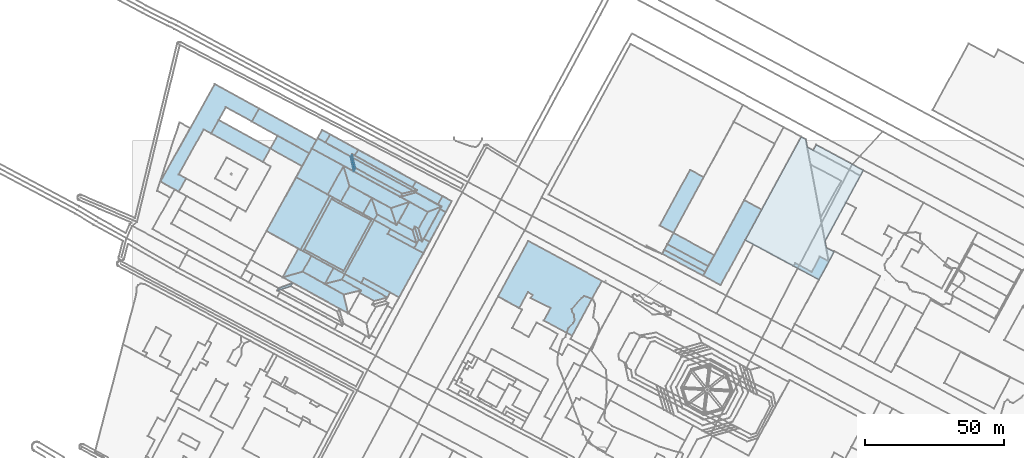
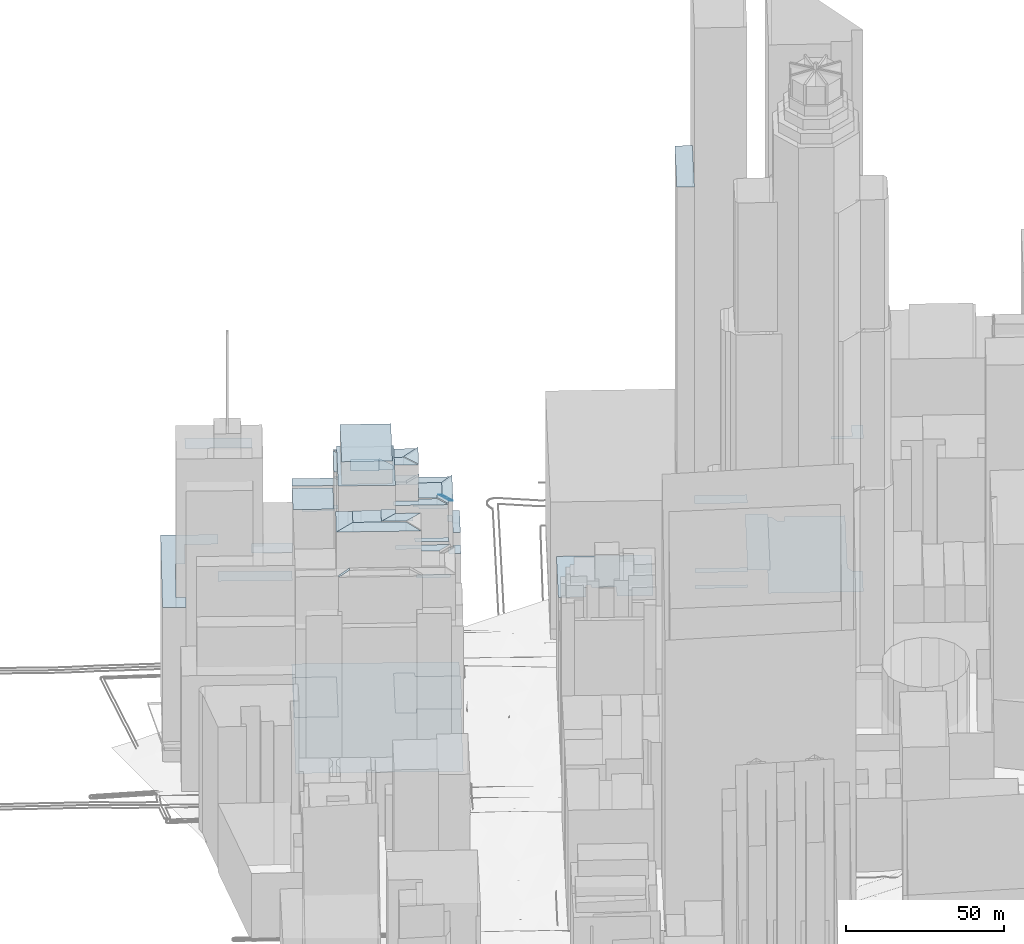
# Not in any storey, part 45 of 80: 49 roofs.
"""IFC4 building model written with IfcOpenShell, lengths in metres."""

from ifc_helpers import new_model, si_unit, frame, origin_with_axes, place, context, subcontext, project, spatial, polygons, element, save


model = new_model("IFC4")

# Units and contexts
model_context = context("Model", 3, precision=1e-05, world=origin_with_axes())
body_context = subcontext(model_context, "Body", "Model", "MODEL_VIEW")
ifc_project = project(units=[si_unit("AREAUNIT", "SQUARE_METRE"), si_unit("LENGTHUNIT", "METRE")], contexts=[model_context])

# Sites, building
site_1_placement = place(None, origin_with_axes())
site_1 = spatial("IfcSite", under=ifc_project, at=site_1_placement, Name="Topoexport Site")
site_2_placement = place(site_1_placement, origin_with_axes())
site_2 = spatial("IfcSite", under=site_1, at=site_2_placement, Name="TPX_BATIMENTS")
building_1_placement = place(site_2_placement, frame((75.1201709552, 329.5761447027, 23.8507407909), z_axis=(0.0, 0.0, 1.0), x_axis=(1.0, 0.0, 0.0)))
building_1 = spatial("IfcBuilding", under=site_2, at=building_1_placement, Name="Batiment 149", CompositionType="ELEMENT")

# Roof
roof_1_placement = place(None, frame((75.1201709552, 329.5761447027, 23.8507407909), z_axis=(0.0, 0.0, 1.0), x_axis=(1.0, 0.0, 0.0)))
element("IfcRoof", 1, at=roof_1_placement, inside=building_1, Name="Toiture 0", context=body_context, shape_type="Tessellation", body=[
    polygons([(0.0, 0.0, 80.0), (7.0088017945, -3.8488115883, 80.0), (6.4714030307, -4.8209481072, 80.0), (11.6537066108, -7.6695578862, 80.0), (16.4083748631, -6.4041945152, 80.0), (1.0997322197, 1.9778684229, 80.0)], [[[6, 1, 2]], [[2, 3, 4]], [[4, 5, 6]], [[6, 2, 4]]]),
])

# Building
building_2_placement = place(site_2_placement, frame((53.8808145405, 330.3842681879, 23.5017044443), z_axis=(0.0, 0.0, 1.0), x_axis=(1.0, 0.0, 0.0)))
building_2 = spatial("IfcBuilding", under=site_2, at=building_2_placement, Name="Batiment 150", CompositionType="ELEMENT")

# Roof
roof_2_placement = place(None, frame((53.8808145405, 330.3842681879, 23.5017044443), z_axis=(0.0, 0.0, 1.0), x_axis=(1.0, 0.0, 0.0)))
element("IfcRoof", 2, at=roof_2_placement, inside=building_2, Name="Toiture 0", context=body_context, shape_type="Tessellation", body=[
    polygons([(0.0, 0.0, 94.0), (20.3973031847, -11.1652006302, 94.0), (23.6510455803, -12.9481890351, 94.0), (21.976830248, -6.1619484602, 94.0), (7.2275813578, 2.0268001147, 94.0)], [[[5, 1, 2]], [[2, 3, 4]], [[4, 5, 2]]]),
])

# Building
building_3_placement = place(site_2_placement, frame((237.4075822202, 334.4377302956, 21.8574343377), z_axis=(0.0, 0.0, 1.0), x_axis=(1.0, 0.0, 0.0)))
building_3 = spatial("IfcBuilding", under=site_2, at=building_3_placement, Name="Batiment 247", CompositionType="ELEMENT")

# Roof
roof_3_placement = place(None, frame((237.4075822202, 334.4377302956, 21.8574343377), z_axis=(0.0, 0.0, 1.0), x_axis=(1.0, 0.0, 0.0)))
element("IfcRoof", 3, at=roof_3_placement, inside=building_3, Name="Toiture 0", context=body_context, shape_type="Tessellation", body=[
    polygons([(0.0, 0.0, 65.0), (9.0722546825, -4.8904699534, 65.0), (12.6339095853, 1.6902007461, 65.0), (9.4062271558, 3.4068039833, 65.0), (6.507259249, -2.0892360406, 65.0), (0.6119191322, 1.095140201, 65.0)], [[[6, 1, 2]], [[2, 3, 4]], [[5, 6, 2]], [[2, 4, 5]]]),
])

# Building
building_4_placement = place(site_2_placement, frame((220.0023122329, 343.8054149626, 21.493715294), z_axis=(0.0, 0.0, 1.0), x_axis=(1.0, 0.0, 0.0)))
building_4 = spatial("IfcBuilding", under=site_2, at=building_4_placement, Name="Batiment 248", CompositionType="ELEMENT")

# Roof
roof_4_placement = place(None, frame((220.0023122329, 343.8054149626, 21.493715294), z_axis=(0.0, 0.0, 1.0), x_axis=(1.0, 0.0, 0.0)))
element("IfcRoof", 4, at=roof_4_placement, inside=building_4, Name="Toiture 0", context=body_context, shape_type="Tessellation", body=[
    polygons([(0.0, 0.0, 6.0), (26.4775246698, -14.2581546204, 6.0), (31.9063663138, -4.1918534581, 6.0), (29.1545647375, -2.74727068, 6.0), (28.6785615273, -0.2881071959, 6.0), (42.4133124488, 25.0405352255, 6.0), (25.5002002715, 34.1918411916, 6.0), (24.4257112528, 32.2253420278, 6.0), (22.3276907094, 33.344465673, 6.0), (21.8057455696, 36.1250606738, 6.0), (20.1234892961, 37.0602835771, 6.0)], [[[11, 1, 2]], [[2, 3, 4]], [[5, 6, 7]], [[9, 10, 11]], [[11, 2, 4]], [[5, 7, 8]], [[11, 4, 5]], [[5, 8, 9]], [[9, 11, 5]]]),
])

# Building
building_5_placement = place(site_2_placement, frame((189.3088417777, 348.9551990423, 22.410062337), z_axis=(0.0, 0.0, 1.0), x_axis=(1.0, 0.0, 0.0)))
building_5 = spatial("IfcBuilding", under=site_2, at=building_5_placement, Name="Batiment 252", CompositionType="ELEMENT")

# Roof
roof_5_placement = place(None, frame((189.3088417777, 348.9551990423, 22.410062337), z_axis=(0.0, 0.0, 1.0), x_axis=(1.0, 0.0, 0.0)))
element("IfcRoof", 5, at=roof_5_placement, inside=building_5, Name="Toiture 0", context=body_context, shape_type="Tessellation", body=[
    polygons([(0.0, 0.0, 170.0), (4.9269305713, -2.6627662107, 170.0), (15.8109363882, 17.3923517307, 170.0), (10.8841438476, 20.0440098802, 170.0)], [[[4, 1, 2]], [[2, 3, 4]]]),
])

# Building
building_6_placement = place(site_2_placement, frame((192.0622109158, 342.2925513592, 22.833956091), z_axis=(0.0, 0.0, 1.0), x_axis=(1.0, 0.0, 0.0)))
building_6 = spatial("IfcBuilding", under=site_2, at=building_6_placement, Name="Batiment 253", CompositionType="ELEMENT")

# Roof
roof_6_placement = place(None, frame((192.0622109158, 342.2925513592, 22.833956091), z_axis=(0.0, 0.0, 1.0), x_axis=(1.0, 0.0, 0.0)))
element("IfcRoof", 6, at=roof_6_placement, inside=building_6, Name="Toiture 0", context=body_context, shape_type="Tessellation", body=[
    polygons([(0.0, 0.0, 50.0), (14.6956420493, -7.9226606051, 50.0), (16.8690690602, -3.9116740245, 50.0), (2.1735614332, 3.9998814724, 50.0)], [[[4, 1, 2]], [[2, 3, 4]]]),
])

# Building
building_7_placement = place(site_2_placement, frame((190.971338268, 340.2814610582, 22.7953305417), z_axis=(0.0, 0.0, 1.0), x_axis=(1.0, 0.0, 0.0)))
building_7 = spatial("IfcBuilding", under=site_2, at=building_7_placement, Name="Batiment 254", CompositionType="ELEMENT")

# Roof
roof_7_placement = place(None, frame((190.971338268, 340.2814610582, 22.7953305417), z_axis=(0.0, 0.0, 1.0), x_axis=(1.0, 0.0, 0.0)))
element("IfcRoof", 7, at=roof_7_placement, inside=building_7, Name="Toiture 0", context=body_context, shape_type="Tessellation", body=[
    polygons([(0.0, 0.0, 25.0), (14.6956447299, -7.9226627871, 25.0), (15.7865146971, -5.9115703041, 25.0), (1.0908726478, 2.011090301, 25.0)], [[[4, 1, 2]], [[2, 3, 4]]]),
])

# Building
building_8_placement = place(site_2_placement, frame((190.1696765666, 338.8066419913, 22.7695470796), z_axis=(0.0, 0.0, 1.0), x_axis=(1.0, 0.0, 0.0)))
building_8 = spatial("IfcBuilding", under=site_2, at=building_8_placement, Name="Batiment 255", CompositionType="ELEMENT")

# Roof
roof_8_placement = place(None, frame((190.1696765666, 338.8066419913, 22.7695470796), z_axis=(0.0, 0.0, 1.0), x_axis=(1.0, 0.0, 0.0)))
element("IfcRoof", 8, at=roof_8_placement, inside=building_8, Name="Toiture 0", context=body_context, shape_type="Tessellation", body=[
    polygons([(0.0, 0.0, 20.0), (14.728245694, -7.822364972, 20.0), (15.4973064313, -6.4478437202, 20.0), (0.8016617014, 1.4748190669, 20.0)], [[[4, 1, 2]], [[2, 3, 4]]]),
])

# Building
building_9_placement = place(site_2_placement, frame((204.8979222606, 330.9842770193, 21.8344391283), z_axis=(0.0, 0.0, 1.0), x_axis=(1.0, 0.0, 0.0)))
building_9 = spatial("IfcBuilding", under=site_2, at=building_9_placement, Name="Batiment 256", CompositionType="ELEMENT")

# Roof
roof_9_placement = place(None, frame((204.8979222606, 330.9842770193, 21.8344391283), z_axis=(0.0, 0.0, 1.0), x_axis=(1.0, 0.0, 0.0)))
element("IfcRoof", 9, at=roof_9_placement, inside=building_9, Name="Toiture 0", context=body_context, shape_type="Tessellation", body=[
    polygons([(0.0, 0.0, 27.7000007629), (6.2862894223, -3.4130030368, 27.7000007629), (21.0215421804, 23.7257687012, 27.7000007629), (14.7522776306, 27.1278546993, 27.7000007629)], [[[4, 1, 2]], [[2, 3, 4]]]),
])

# Building
building_10_placement = place(site_2_placement, frame((131.2414210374, 323.4889407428, 19.5874307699), z_axis=(0.0, 0.0, 1.0), x_axis=(1.0, 0.0, 0.0)))
building_10 = spatial("IfcBuilding", under=site_2, at=building_10_placement, Name="Batiment 257", CompositionType="ELEMENT")

# Roof
roof_10_placement = place(None, frame((131.2414210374, 323.4889407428, 19.5874307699), z_axis=(0.0, 0.0, 1.0), x_axis=(1.0, 0.0, 0.0)))
element("IfcRoof", 10, at=roof_10_placement, inside=building_10, Name="Toiture 0", context=body_context, shape_type="Tessellation", body=[
    polygons([(0.0, 0.0, 49.7000007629), (7.6623465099, -4.1520283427, 49.7000007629), (10.7530705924, 1.557139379, 49.7000007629), (12.4605179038, 0.6332892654, 49.7000007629), (11.7910505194, -0.5957385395, 49.7000007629), (18.9140593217, -4.0989897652, 49.7000007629), (16.4763130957, -8.6126311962, 49.7000007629), (26.6105246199, -14.0903890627, 49.7000007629), (37.2957336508, 5.6514960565, 49.7000007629), (10.8174622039, 19.9876323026, 49.7000007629)], [[[10, 1, 2]], [[4, 5, 6]], [[6, 7, 8]], [[8, 9, 10]], [[10, 2, 3]], [[6, 8, 10]], [[10, 3, 4]], [[4, 6, 10]]]),
])

# Building
building_11_placement = place(site_2_placement, frame((96.2081885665, 359.2420118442, 24.1378546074), z_axis=(0.0, 0.0, 1.0), x_axis=(1.0, 0.0, 0.0)))
building_11 = spatial("IfcBuilding", under=site_2, at=building_11_placement, Name="Batiment 275", CompositionType="ELEMENT")

# Roof
roof_11_placement = place(None, frame((96.2081885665, 359.2420118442, 24.1378546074), z_axis=(0.0, 0.0, 1.0), x_axis=(1.0, 0.0, 0.0)))
element("IfcRoof", 11, at=roof_11_placement, inside=building_11, Name="Toiture 0", context=body_context, shape_type="Tessellation", body=[
    polygons([(0.0, 0.0, 80.0), (5.476758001, 1.5957227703, 80.0), (5.9728530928, 2.4896654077, 80.0), (0.6444088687, 1.2065279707, 80.0)], [[[4, 1, 2]], [[2, 3, 4]]]),
])

# Building
building_12_placement = place(site_2_placement, frame((100.5582678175, 362.6343155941, 24.249661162), z_axis=(0.0, 0.0, 1.0), x_axis=(1.0, 0.0, 0.0)))
building_12 = spatial("IfcBuilding", under=site_2, at=building_12_placement, Name="Batiment 276", CompositionType="ELEMENT")

# Roof
roof_12_placement = place(None, frame((100.5582678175, 362.6343155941, 24.249661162), z_axis=(0.0, 0.0, 1.0), x_axis=(1.0, 0.0, 0.0)))
element("IfcRoof", 12, at=roof_12_placement, inside=building_12, Name="Toiture 0", context=body_context, shape_type="Tessellation", body=[
    polygons([(0.0, 0.0, 67.0), (1.6227738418, -0.9026383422, 67.0), (1.12667875, -1.7965809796, 67.0), (9.0533233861, -6.1787158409, 67.0), (10.7731599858, -3.0834129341, 67.0), (1.1989392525, 2.1566610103, 67.0)], [[[6, 1, 2]], [[2, 3, 4]], [[4, 5, 6]], [[6, 2, 4]]]),
])

# Building
building_13_placement = place(site_2_placement, frame((95.4278204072, 350.1179975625, 24.1757851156), z_axis=(0.0, 0.0, 1.0), x_axis=(1.0, 0.0, 0.0)))
building_13 = spatial("IfcBuilding", under=site_2, at=building_13_placement, Name="Batiment 277", CompositionType="ELEMENT")

# Roof
roof_13_placement = place(None, frame((95.4278204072, 350.1179975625, 24.1757851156), z_axis=(0.0, 0.0, 1.0), x_axis=(1.0, 0.0, 0.0)))
element("IfcRoof", 13, at=roof_13_placement, inside=building_13, Name="Toiture 0", context=body_context, shape_type="Tessellation", body=[
    polygons([(0.0, 0.0, 80.0), (5.1904741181, -2.8263004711, 80.0), (5.942800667, -1.4630871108, 80.0), (7.3274473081, -2.2130597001, 80.0), (10.6093444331, 3.7536652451, 80.0), (4.0340988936, 7.3410355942, 80.0)], [[[6, 1, 2]], [[3, 4, 5]], [[6, 2, 3]], [[3, 5, 6]]]),
])

# Building
building_14_placement = place(site_2_placement, frame((100.6182945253, 347.2916970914, 24.2468793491), z_axis=(0.0, 0.0, 1.0), x_axis=(1.0, 0.0, 0.0)))
building_14 = spatial("IfcBuilding", under=site_2, at=building_14_placement, Name="Batiment 278", CompositionType="ELEMENT")

# Roof
roof_14_placement = place(None, frame((100.6182945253, 347.2916970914, 24.2468793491), z_axis=(0.0, 0.0, 1.0), x_axis=(1.0, 0.0, 0.0)))
element("IfcRoof", 14, at=roof_14_placement, inside=building_14, Name="Toiture 0", context=body_context, shape_type="Tessellation", body=[
    polygons([(0.0, 0.0, 80.0), (1.4724916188, -4.6791504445, 80.0), (2.1913155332, -3.3385306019, 80.0), (0.7523265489, 1.3632133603, 80.0)], [[[4, 1, 2]], [[2, 3, 4]]]),
])

# Building
building_15_placement = place(site_2_placement, frame((101.3706210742, 348.6549104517, 24.232721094), z_axis=(0.0, 0.0, 1.0), x_axis=(1.0, 0.0, 0.0)))
building_15 = spatial("IfcBuilding", under=site_2, at=building_15_placement, Name="Batiment 279", CompositionType="ELEMENT")

# Roof
roof_15_placement = place(None, frame((101.3706210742, 348.6549104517, 24.232721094), z_axis=(0.0, 0.0, 1.0), x_axis=(1.0, 0.0, 0.0)))
element("IfcRoof", 15, at=roof_15_placement, inside=building_15, Name="Toiture 0", context=body_context, shape_type="Tessellation", body=[
    polygons([(0.0, 0.0, 80.0), (1.4389889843, -4.7017439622, 80.0), (2.7214517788, -5.3751874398, 80.0), (1.3846466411, -0.7499725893, 80.0)], [[[4, 1, 2]], [[2, 3, 4]]]),
])

# Building
building_16_placement = place(site_2_placement, frame((104.621027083, 344.2517632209, 24.2058781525), z_axis=(0.0, 0.0, 1.0), x_axis=(1.0, 0.0, 0.0)))
building_16 = spatial("IfcBuilding", under=site_2, at=building_16_placement, Name="Batiment 280", CompositionType="ELEMENT")

# Roof
roof_16_placement = place(None, frame((104.621027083, 344.2517632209, 24.2058781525), z_axis=(0.0, 0.0, 1.0), x_axis=(1.0, 0.0, 0.0)))
element("IfcRoof", 16, at=roof_16_placement, inside=building_16, Name="Toiture 0", context=body_context, shape_type="Tessellation", body=[
    polygons([(0.0, 0.0, 67.0), (2.0982656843, -1.14136393, 67.0), (7.8835058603, 9.5062875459, 67.0), (5.7938113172, 10.6366471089, 67.0)], [[[4, 1, 2]], [[2, 3, 4]]]),
])

# Building
building_17_placement = place(site_2_placement, frame((102.7552677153, 347.9049378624, 24.232721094), z_axis=(0.0, 0.0, 1.0), x_axis=(1.0, 0.0, 0.0)))
building_17 = spatial("IfcBuilding", under=site_2, at=building_17_placement, Name="Batiment 281", CompositionType="ELEMENT")

# Roof
roof_17_placement = place(None, frame((102.7552677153, 347.9049378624, 24.232721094), z_axis=(0.0, 0.0, 1.0), x_axis=(1.0, 0.0, 0.0)))
element("IfcRoof", 17, at=roof_17_placement, inside=building_17, Name="Toiture 0", context=body_context, shape_type="Tessellation", body=[
    polygons([(0.0, 0.0, 80.0), (1.3368051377, -4.6252148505, 80.0), (8.1803409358, 7.9332136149, 80.0), (3.281897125, 5.9667249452, 80.0)], [[[4, 1, 2]], [[2, 3, 4]]]),
])

# Building
building_18_placement = place(site_2_placement, frame((109.6115912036, 356.4555997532, 24.2810848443), z_axis=(0.0, 0.0, 1.0), x_axis=(1.0, 0.0, 0.0)))
building_18 = spatial("IfcBuilding", under=site_2, at=building_18_placement, Name="Batiment 282", CompositionType="ELEMENT")

# Roof
roof_18_placement = place(None, frame((109.6115912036, 356.4555997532, 24.2810848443), z_axis=(0.0, 0.0, 1.0), x_axis=(1.0, 0.0, 0.0)))
element("IfcRoof", 18, at=roof_18_placement, inside=building_18, Name="Toiture 0", context=body_context, shape_type="Tessellation", body=[
    polygons([(0.0, 0.0, 62.0), (1.3240174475, -0.6174482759, 62.0), (0.8032471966, -1.5671894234, 62.0), (2.8929417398, -2.6975489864, 62.0), (5.0500484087, 1.268810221, 62.0), (1.7198365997, 3.0953029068, 62.0)], [[[6, 1, 2]], [[2, 3, 4]], [[4, 5, 6]], [[6, 2, 4]]]),
])

# Building
building_19_placement = place(site_2_placement, frame((101.1237847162, 340.8360563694, 24.2058781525), z_axis=(0.0, 0.0, 1.0), x_axis=(1.0, 0.0, 0.0)))
building_19 = spatial("IfcBuilding", under=site_2, at=building_19_placement, Name="Batiment 283", CompositionType="ELEMENT")

# Roof
roof_19_placement = place(None, frame((101.1237847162, 340.8360563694, 24.2058781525), z_axis=(0.0, 0.0, 1.0), x_axis=(1.0, 0.0, 0.0)))
element("IfcRoof", 19, at=roof_19_placement, inside=building_19, Name="Toiture 0", context=body_context, shape_type="Tessellation", body=[
    polygons([(0.0, 0.0, 62.0), (3.3638492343, -1.8150044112, 62.0), (5.5955080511, 2.2743429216, 62.0), (3.4972423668, 3.4157068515, 62.0), (2.9682881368, 2.4436666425, 62.0), (1.6858253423, 3.1171101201, 62.0)], [[[6, 1, 2]], [[2, 3, 4]], [[5, 6, 2]], [[2, 4, 5]]]),
])

# Building
building_20_placement = place(site_2_placement, frame((76.2199031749, 331.5540131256, 23.8161532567), z_axis=(0.0, 0.0, 1.0), x_axis=(1.0, 0.0, 0.0)))
building_20 = spatial("IfcBuilding", under=site_2, at=building_20_placement, Name="Batiment 284", CompositionType="ELEMENT")

# Roof
roof_20_placement = place(None, frame((76.2199031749, 331.5540131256, 23.8161532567), z_axis=(0.0, 0.0, 1.0), x_axis=(1.0, 0.0, 0.0)))
element("IfcRoof", 20, at=roof_20_placement, inside=building_20, Name="Toiture 0", context=body_context, shape_type="Tessellation", body=[
    polygons([(0.0, 0.0, 15.0), (5.886443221, -3.1512997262, 15.0), (6.870460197, -1.3857167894, 15.0), (19.4873212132, -8.4001453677, 15.0), (28.2677307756, 7.4670388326, 15.0), (15.4237759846, 14.4122011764, 15.0), (16.3907789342, 16.1886902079, 15.0), (10.5539558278, 19.4293756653, 15.0)], [[[8, 1, 2]], [[3, 4, 5]], [[6, 7, 8]], [[8, 2, 3]], [[3, 5, 6]], [[6, 8, 3]]]),
])

# Building
building_21_placement = place(site_2_placement, frame((91.6436791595, 345.966214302, 24.0394007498), z_axis=(0.0, 0.0, 1.0), x_axis=(1.0, 0.0, 0.0)))
building_21 = spatial("IfcBuilding", under=site_2, at=building_21_placement, Name="Batiment 285", CompositionType="ELEMENT")

# Roof
roof_21_placement = place(None, frame((91.6436791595, 345.966214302, 24.0394007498), z_axis=(0.0, 0.0, 1.0), x_axis=(1.0, 0.0, 0.0)))
element("IfcRoof", 21, at=roof_21_placement, inside=building_21, Name="Toiture 0", context=body_context, shape_type="Tessellation", body=[
    polygons([(0.0, 0.0, 67.0), (9.4801055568, -5.1301579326, 67.0), (10.4471069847, -3.353667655, 67.0), (0.9670029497, 1.7764890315, 67.0)], [[[4, 1, 2]], [[2, 3, 4]]]),
])

# Building
building_22_placement = place(site_2_placement, frame((86.7738590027, 350.9833887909, 23.8161532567), z_axis=(0.0, 0.0, 1.0), x_axis=(1.0, 0.0, 0.0)))
building_22 = spatial("IfcBuilding", under=site_2, at=building_22_placement, Name="Batiment 286", CompositionType="ELEMENT")

# Roof
roof_22_placement = place(None, frame((86.7738590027, 350.9833887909, 23.8161532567), z_axis=(0.0, 0.0, 1.0), x_axis=(1.0, 0.0, 0.0)))
element("IfcRoof", 22, at=roof_22_placement, inside=building_22, Name="Toiture 0", context=body_context, shape_type="Tessellation", body=[
    polygons([(0.0, 0.0, 80.0), (5.8368231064, -3.2406854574, 80.0), (15.3169271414, -8.3708421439, 80.0), (13.8444355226, -3.6916916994, 80.0), (8.6539614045, -0.8653912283, 80.0), (8.1165662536, -1.8375288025, 80.0), (1.1079080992, 2.0001698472, 80.0)], [[[7, 1, 2]], [[2, 3, 4]], [[4, 5, 6]], [[6, 7, 2]], [[2, 4, 6]]]),
])

# Building
building_23_placement = place(site_2_placement, frame((92.8106246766, 355.2390469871, 24.0480155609), z_axis=(0.0, 0.0, 1.0), x_axis=(1.0, 0.0, 0.0)))
building_23 = spatial("IfcBuilding", under=site_2, at=building_23_placement, Name="Batiment 287", CompositionType="ELEMENT")

# Roof
roof_23_placement = place(None, frame((92.8106246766, 355.2390469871, 24.0480155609), z_axis=(0.0, 0.0, 1.0), x_axis=(1.0, 0.0, 0.0)))
element("IfcRoof", 23, at=roof_23_placement, inside=building_23, Name="Toiture 0", context=body_context, shape_type="Tessellation", body=[
    polygons([(0.0, 0.0, 94.0), (2.0798005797, -6.0931869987, 94.0), (6.6512946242, 2.2199861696, 94.0)], [[[3, 1, 2]]]),
])

# Building
building_24_placement = place(site_2_placement, frame((79.4722561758, 368.4179540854, 23.5718630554), z_axis=(0.0, 0.0, 1.0), x_axis=(1.0, 0.0, 0.0)))
building_24 = spatial("IfcBuilding", under=site_2, at=building_24_placement, Name="Batiment 288", CompositionType="ELEMENT")

# Roof
roof_24_placement = place(None, frame((79.4722561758, 368.4179540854, 23.5718630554), z_axis=(0.0, 0.0, 1.0), x_axis=(1.0, 0.0, 0.0)))
element("IfcRoof", 24, at=roof_24_placement, inside=building_24, Name="Toiture 0", context=body_context, shape_type="Tessellation", body=[
    polygons([(0.0, 0.0, 80.0), (16.7359323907, -9.1759422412, 80.0), (17.3803412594, -7.9694142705, 80.0), (0.6023388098, 1.1949356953, 80.0)], [[[4, 1, 2]], [[2, 3, 4]]]),
])

# Building
building_25_placement = place(site_2_placement, frame((75.8192697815, 370.4183503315, 23.455162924), z_axis=(0.0, 0.0, 1.0), x_axis=(1.0, 0.0, 0.0)))
building_25 = spatial("IfcBuilding", under=site_2, at=building_25_placement, Name="Batiment 289", CompositionType="ELEMENT")

# Roof
roof_25_placement = place(None, frame((75.8192697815, 370.4183503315, 23.455162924), z_axis=(0.0, 0.0, 1.0), x_axis=(1.0, 0.0, 0.0)))
element("IfcRoof", 25, at=roof_25_placement, inside=building_25, Name="Toiture 0", context=body_context, shape_type="Tessellation", body=[
    polygons([(0.0, 0.0, 94.0), (2.1596786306, -7.1580802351, 94.0), (16.9913548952, -15.1793033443, 94.0), (23.6426495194, -12.9593171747, 94.0)], [[[4, 1, 2]], [[2, 3, 4]]]),
])

# Building
building_26_placement = place(site_2_placement, frame((85.9220693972, 358.9116084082, 23.7825598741), z_axis=(0.0, 0.0, 1.0), x_axis=(1.0, 0.0, 0.0)))
building_26 = spatial("IfcBuilding", under=site_2, at=building_26_placement, Name="Batiment 290", CompositionType="ELEMENT")

# Roof
roof_26_placement = place(None, frame((85.9220693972, 358.9116084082, 23.7825598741), z_axis=(0.0, 0.0, 1.0), x_axis=(1.0, 0.0, 0.0)))
element("IfcRoof", 26, at=roof_26_placement, inside=building_26, Name="Toiture 0", context=body_context, shape_type="Tessellation", body=[
    polygons([(0.0, 0.0, 94.0), (1.9596977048, -5.9280497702, 94.0), (8.9683558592, -9.7657484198, 94.0), (6.8885552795, -3.6725614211, 94.0)], [[[4, 1, 2]], [[2, 3, 4]]]),
])

# Building
building_27_placement = place(site_2_placement, frame((82.7722366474, 353.201778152, 23.6513045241), z_axis=(0.0, 0.0, 1.0), x_axis=(1.0, 0.0, 0.0)))
building_27 = spatial("IfcBuilding", under=site_2, at=building_27_placement, Name="Batiment 291", CompositionType="ELEMENT")

# Roof
roof_27_placement = place(None, frame((82.7722366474, 353.201778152, 23.6513045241), z_axis=(0.0, 0.0, 1.0), x_axis=(1.0, 0.0, 0.0)))
element("IfcRoof", 27, at=roof_27_placement, inside=building_27, Name="Toiture 0", context=body_context, shape_type="Tessellation", body=[
    polygons([(0.0, 0.0, 94.0), (4.0016223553, -2.2183893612, 94.0), (5.1095304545, -0.218219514, 94.0), (3.1498327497, 5.7098302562, 94.0)], [[[4, 1, 2]], [[2, 3, 4]]]),
])

# Building
building_28_placement = place(site_2_placement, frame((74.8292405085, 357.53934249, 23.2877785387), z_axis=(0.0, 0.0, 1.0), x_axis=(1.0, 0.0, 0.0)))
building_28 = spatial("IfcBuilding", under=site_2, at=building_28_placement, Name="Batiment 292", CompositionType="ELEMENT")

# Roof
roof_28_placement = place(None, frame((74.8292405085, 357.53934249, 23.2877785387), z_axis=(0.0, 0.0, 1.0), x_axis=(1.0, 0.0, 0.0)))
element("IfcRoof", 28, at=roof_28_placement, inside=building_28, Name="Toiture 0", context=body_context, shape_type="Tessellation", body=[
    polygons([(0.0, 0.0, 94.0), (7.9429961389, -4.337564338, 94.0), (11.0928288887, 1.3722659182, 94.0), (3.1497079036, 5.7209276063, 94.0)], [[[4, 1, 2]], [[2, 3, 4]]]),
])

# Building
building_29_placement = place(site_2_placement, frame((38.8830888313, 330.1657711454, 23.4054188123), z_axis=(0.0, 0.0, 1.0), x_axis=(1.0, 0.0, 0.0)))
building_29 = spatial("IfcBuilding", under=site_2, at=building_29_placement, Name="Batiment 293", CompositionType="ELEMENT")

# Roof
roof_29_placement = place(None, frame((38.8830888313, 330.1657711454, 23.4054188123), z_axis=(0.0, 0.0, 1.0), x_axis=(1.0, 0.0, 0.0)))
element("IfcRoof", 29, at=roof_29_placement, inside=building_29, Name="Toiture 0", context=body_context, shape_type="Tessellation", body=[
    polygons([(0.0, 0.0, 6.0), (46.6647208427, -25.5263239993, 6.0), (75.778550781, 27.5586388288, 6.0), (29.2065067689, 53.1191580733, 6.0)], [[[4, 1, 2]], [[2, 3, 4]]]),
])

# Building
building_30_placement = place(site_2_placement, frame((61.6318682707, 340.3996652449, 127.1275293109), z_axis=(0.0, 0.0, 1.0), x_axis=(1.0, 0.0, 0.0)))
building_30 = spatial("IfcBuilding", under=site_2, at=building_30_placement, Name="Batiment 294", CompositionType="ELEMENT")

# Roof
roof_30_placement = place(None, frame((61.6318682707, 340.3996652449, 127.1275293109), z_axis=(0.0, 0.0, 1.0), x_axis=(1.0, 0.0, 0.0)))
element("IfcRoof", 30, at=roof_30_placement, inside=building_30, Name="Toiture 0", context=body_context, shape_type="Tessellation", body=[
    polygons([(0.0, 0.0, 8.8000030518), (14.1943048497, -7.651180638, 8.8000030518), (24.0125535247, 10.4373802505, 8.8000030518), (9.81827195, 18.0885419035, 8.8000030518)], [[[4, 1, 2]], [[2, 3, 4]]]),
])

# Building
building_31_placement = place(site_2_placement, frame((60.3249272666, 340.2734696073, 23.0925662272), z_axis=(0.0, 0.0, 1.0), x_axis=(1.0, 0.0, 0.0)))
building_31 = spatial("IfcBuilding", under=site_2, at=building_31_placement, Name="Batiment 295", CompositionType="ELEMENT")

# Roof
roof_31_placement = place(None, frame((60.3249272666, 340.2734696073, 23.0925662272), z_axis=(0.0, 0.0, 1.0), x_axis=(1.0, 0.0, 0.0)))
element("IfcRoof", 31, at=roof_31_placement, inside=building_31, Name="Toiture 0", context=body_context, shape_type="Tessellation", body=[
    polygons([(0.0, 0.0, 104.0), (15.8949759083, -8.7194564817, 104.0), (26.4489317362, 10.7099191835, 104.0), (10.5539835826, 19.4293528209, 104.0)], [[[4, 1, 2]], [[2, 3, 4]]]),
])

# Building
building_32_placement = place(site_2_placement, frame((70.1312780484, 360.1160272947, 23.0634036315), z_axis=(0.0, 0.0, 1.0), x_axis=(1.0, 0.0, 0.0)))
building_32 = spatial("IfcBuilding", under=site_2, at=building_32_placement, Name="Batiment 296", CompositionType="ELEMENT")

# Roof
roof_32_placement = place(None, frame((70.1312780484, 360.1160272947, 23.0634036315), z_axis=(0.0, 0.0, 1.0), x_axis=(1.0, 0.0, 0.0)))
element("IfcRoof", 32, at=roof_32_placement, inside=building_32, Name="Toiture 0", context=body_context, shape_type="Tessellation", body=[
    polygons([(0.0, 0.0, 94.0), (4.6979624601, -2.5766848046, 94.0), (7.8476703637, 3.1442428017, 94.0), (5.6879917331, 10.3023230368, 94.0)], [[[4, 1, 2]], [[2, 3, 4]]]),
])

# Building
building_33_placement = place(site_2_placement, frame((48.1254357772, 346.9708364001, 22.6869888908), z_axis=(0.0, 0.0, 1.0), x_axis=(1.0, 0.0, 0.0)))
building_33 = spatial("IfcBuilding", under=site_2, at=building_33_placement, Name="Batiment 297", CompositionType="ELEMENT")

# Roof
roof_33_placement = place(None, frame((48.1254357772, 346.9708364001, 22.6869888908), z_axis=(0.0, 0.0, 1.0), x_axis=(1.0, 0.0, 0.0)))
element("IfcRoof", 33, at=roof_33_placement, inside=building_33, Name="Toiture 0", context=body_context, shape_type="Tessellation", body=[
    polygons([(0.0, 0.0, 15.0), (12.1994914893, -6.6973667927, 15.0), (22.753475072, 12.7319860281, 15.0), (10.6309973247, 19.3414111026, 15.0)], [[[4, 1, 2]], [[2, 3, 4]]]),
])

# Building
building_34_placement = place(site_2_placement, frame((53.8808145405, 330.3842681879, 23.2090927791), z_axis=(0.0, 0.0, 1.0), x_axis=(1.0, 0.0, 0.0)))
building_34 = spatial("IfcBuilding", under=site_2, at=building_34_placement, Name="Batiment 299", CompositionType="ELEMENT")

# Roof
roof_34_placement = place(None, frame((53.8808145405, 330.3842681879, 23.2090927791), z_axis=(0.0, 0.0, 1.0), x_axis=(1.0, 0.0, 0.0)))
element("IfcRoof", 34, at=roof_34_placement, inside=building_34, Name="Toiture 0", context=body_context, shape_type="Tessellation", body=[
    polygons([(0.0, 0.0, 94.0), (7.2275813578, 2.0268001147, 94.0), (10.3860090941, 7.7256178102, 94.0), (5.6964786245, 10.3024073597, 94.0)], [[[4, 1, 2]], [[2, 3, 4]]]),
])

# Building
building_35_placement = place(site_2_placement, frame((69.0516677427, 328.0512876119, 23.6953649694), z_axis=(0.0, 0.0, 1.0), x_axis=(1.0, 0.0, 0.0)))
building_35 = spatial("IfcBuilding", under=site_2, at=building_35_placement, Name="Batiment 300", CompositionType="ELEMENT")

# Roof
roof_35_placement = place(None, frame((69.0516677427, 328.0512876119, 23.6953649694), z_axis=(0.0, 0.0, 1.0), x_axis=(1.0, 0.0, 0.0)))
element("IfcRoof", 35, at=roof_35_placement, inside=building_35, Name="Toiture 0", context=body_context, shape_type="Tessellation", body=[
    polygons([(0.0, 0.0, 94.0), (6.0685032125, 1.5248570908, 94.0), (7.1682354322, 3.5027255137, 94.0), (3.1498546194, 5.7098238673, 94.0)], [[[4, 1, 2]], [[2, 3, 4]]]),
])

# Building
building_36_placement = place(site_2_placement, frame((61.1083958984, 332.4110683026, 23.390927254), z_axis=(0.0, 0.0, 1.0), x_axis=(1.0, 0.0, 0.0)))
building_36 = spatial("IfcBuilding", under=site_2, at=building_36_placement, Name="Batiment 301", CompositionType="ELEMENT")

# Roof
roof_36_placement = place(None, frame((61.1083958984, 332.4110683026, 23.390927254), z_axis=(0.0, 0.0, 1.0), x_axis=(1.0, 0.0, 0.0)))
element("IfcRoof", 36, at=roof_36_placement, inside=building_36, Name="Toiture 0", context=body_context, shape_type="Tessellation", body=[
    polygons([(0.0, 0.0, 94.0), (7.9432718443, -4.3597806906, 94.0), (11.0931264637, 1.3500431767, 94.0), (3.1584277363, 5.6988176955, 94.0)], [[[4, 1, 2]], [[2, 3, 4]]]),
])

# Building
building_37_placement = place(site_2_placement, frame((28.2698359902, 382.0233366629, 22.5121474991), z_axis=(0.0, 0.0, 1.0), x_axis=(1.0, 0.0, 0.0)))
building_37 = spatial("IfcBuilding", under=site_2, at=building_37_placement, Name="Batiment 307", CompositionType="ELEMENT")

# Roof
roof_37_placement = place(None, frame((28.2698359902, 382.0233366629, 22.5121474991), z_axis=(0.0, 0.0, 1.0), x_axis=(1.0, 0.0, 0.0)))
element("IfcRoof", 37, at=roof_37_placement, inside=building_37, Name="Toiture 0", context=body_context, shape_type="Tessellation", body=[
    polygons([(0.0, 0.0, 105.0), (18.5803637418, -10.275973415, 105.0), (21.2760581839, -5.4374062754, 105.0), (2.6958312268, 4.8274595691, 105.0)], [[[4, 1, 2]], [[2, 3, 4]]]),
])

# Building
building_38_placement = place(site_2_placement, frame((10.068288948, 364.747963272, 22.7304030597), z_axis=(0.0, 0.0, 1.0), x_axis=(1.0, 0.0, 0.0)))
building_38 = spatial("IfcBuilding", under=site_2, at=building_38_placement, Name="Batiment 308", CompositionType="ELEMENT")

# Roof
roof_38_placement = place(None, frame((10.068288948, 364.747963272, 22.7304030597), z_axis=(0.0, 0.0, 1.0), x_axis=(1.0, 0.0, 0.0)))
element("IfcRoof", 38, at=roof_38_placement, inside=building_38, Name="Toiture 0", context=body_context, shape_type="Tessellation", body=[
    polygons([(0.0, 0.0, 60.0), (6.5418195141, -3.6211429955, 60.0), (9.196238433, 1.1392176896, 60.0), (6.5370782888, 2.6071649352, 60.0), (15.5253815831, 18.7542222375, 60.0), (18.2015470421, 17.2753733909, 60.0), (23.4855455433, 26.7514080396, 60.0), (32.8138870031, 21.5972119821, 60.0), (35.4104872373, 26.245889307, 60.0), (19.514901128, 35.0320145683, 60.0)], [[[1, 2, 3]], [[5, 6, 7]], [[7, 8, 9]], [[1, 3, 4]], [[7, 9, 10]], [[10, 1, 4]], [[5, 7, 10]], [[10, 4, 5]]]),
])

# Building
building_39_placement = place(site_2_placement, frame((42.8821759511, 386.3451752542, 23.3606694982), z_axis=(0.0, 0.0, 1.0), x_axis=(1.0, 0.0, 0.0)))
building_39 = spatial("IfcBuilding", under=site_2, at=building_39_placement, Name="Batiment 313", CompositionType="ELEMENT")

# Roof
roof_39_placement = place(None, frame((42.8821759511, 386.3451752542, 23.3606694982), z_axis=(0.0, 0.0, 1.0), x_axis=(1.0, 0.0, 0.0)))
element("IfcRoof", 39, at=roof_39_placement, inside=building_39, Name="Toiture 0", context=body_context, shape_type="Tessellation", body=[
    polygons([(0.0, 0.0, 45.0), (20.6194143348, -11.4068981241, 45.0), (23.1902990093, -6.725205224, 45.0), (2.5966002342, 4.6486773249, 45.0)], [[[4, 1, 2]], [[2, 3, 4]]]),
])

# Building
building_40_placement = place(site_2_placement, frame((49.545894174, 376.5859303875, 22.872031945), z_axis=(0.0, 0.0, 1.0), x_axis=(1.0, 0.0, 0.0)))
building_40 = spatial("IfcBuilding", under=site_2, at=building_40_placement, Name="Batiment 314", CompositionType="ELEMENT")

# Roof
roof_40_placement = place(None, frame((49.545894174, 376.5859303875, 22.872031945), z_axis=(0.0, 0.0, 1.0), x_axis=(1.0, 0.0, 0.0)))
element("IfcRoof", 40, at=roof_40_placement, inside=building_40, Name="Toiture 0", context=body_context, shape_type="Tessellation", body=[
    polygons([(0.0, 0.0, 60.0), (11.3929905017, -6.3070456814, 60.0), (13.9556961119, -1.6476532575, 60.0), (2.5882884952, 4.637480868, 60.0)], [[[4, 1, 2]], [[2, 3, 4]]]),
])

# Building
building_41_placement = place(site_2_placement, frame((58.756433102, 366.3122475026, 22.6869888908), z_axis=(0.0, 0.0, 1.0), x_axis=(1.0, 0.0, 0.0)))
building_41 = spatial("IfcBuilding", under=site_2, at=building_41_placement, Name="Batiment 315", CompositionType="ELEMENT")

# Roof
roof_41_placement = place(None, frame((58.756433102, 366.3122475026, 22.6869888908), z_axis=(0.0, 0.0, 1.0), x_axis=(1.0, 0.0, 0.0)))
element("IfcRoof", 41, at=roof_41_placement, inside=building_41, Name="Toiture 0", context=body_context, shape_type="Tessellation", body=[
    polygons([(0.0, 0.0, 80.0), (11.3748449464, -6.196220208, 80.0), (17.0628366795, 4.1061028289, 80.0), (5.6791754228, 10.3355185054, 80.0)], [[[4, 1, 2]], [[2, 3, 4]]]),
])

# Building
building_42_placement = place(site_2_placement, frame((69.2904287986, 378.7358456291, 23.7854365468), z_axis=(0.0, 0.0, 1.0), x_axis=(1.0, 0.0, 0.0)))
building_42 = spatial("IfcBuilding", under=site_2, at=building_42_placement, Name="Batiment 316", CompositionType="ELEMENT")

# Roof
roof_42_placement = place(None, frame((69.2904287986, 378.7358456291, 23.7854365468), z_axis=(0.0, 0.0, 1.0), x_axis=(1.0, 0.0, 0.0)))
element("IfcRoof", 42, at=roof_42_placement, inside=building_42, Name="Toiture 0", context=body_context, shape_type="Tessellation", body=[
    polygons([(0.0, 0.0, 67.0), (9.0394844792, -4.9909724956, 67.0), (9.5440215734, -4.0969334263, 67.0), (10.5380936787, -4.6516049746, 67.0), (11.6874272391, -2.5843414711, 67.0), (1.653744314, 2.9724011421, 67.0)], [[[6, 1, 2]], [[3, 4, 5]], [[6, 2, 3]], [[3, 5, 6]]]),
])

# Building
building_43_placement = place(site_2_placement, frame((78.3299132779, 373.7448731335, 23.5718630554), z_axis=(0.0, 0.0, 1.0), x_axis=(1.0, 0.0, 0.0)))
building_43 = spatial("IfcBuilding", under=site_2, at=building_43_placement, Name="Batiment 317", CompositionType="ELEMENT")

# Roof
roof_43_placement = place(None, frame((78.3299132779, 373.7448731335, 23.5718630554), z_axis=(0.0, 0.0, 1.0), x_axis=(1.0, 0.0, 0.0)))
element("IfcRoof", 43, at=roof_43_placement, inside=building_43, Name="Toiture 0", context=body_context, shape_type="Tessellation", body=[
    polygons([(0.0, 0.0, 80.0), (1.1423428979, -5.3269190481, 80.0), (1.7446817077, -4.1319833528, 80.0), (0.5045370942, 0.8940390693, 80.0)], [[[4, 1, 2]], [[2, 3, 4]]]),
])

# Building
building_44_placement = place(site_2_placement, frame((64.4356085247, 376.647766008, 23.5361312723), z_axis=(0.0, 0.0, 1.0), x_axis=(1.0, 0.0, 0.0)))
building_44 = spatial("IfcBuilding", under=site_2, at=building_44_placement, Name="Batiment 318", CompositionType="ELEMENT")

# Roof
roof_44_placement = place(None, frame((64.4356085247, 376.647766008, 23.5361312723), z_axis=(0.0, 0.0, 1.0), x_axis=(1.0, 0.0, 0.0)))
element("IfcRoof", 44, at=roof_44_placement, inside=building_44, Name="Toiture 0", context=body_context, shape_type="Tessellation", body=[
    polygons([(0.0, 0.0, 80.0), (41.6015563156, -22.7761032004, 80.0), (46.5000001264, -20.8096145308, 80.0), (2.0171223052, 3.6649587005, 80.0)], [[[4, 1, 2]], [[2, 3, 4]]]),
])

# Building
building_45_placement = place(site_2_placement, frame((78.834450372, 374.6389122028, 23.6117030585), z_axis=(0.0, 0.0, 1.0), x_axis=(1.0, 0.0, 0.0)))
building_45 = spatial("IfcBuilding", under=site_2, at=building_45_placement, Name="Batiment 319", CompositionType="ELEMENT")

# Roof
roof_45_placement = place(None, frame((78.834450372, 374.6389122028, 23.6117030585), z_axis=(0.0, 0.0, 1.0), x_axis=(1.0, 0.0, 0.0)))
element("IfcRoof", 45, at=roof_45_placement, inside=building_45, Name="Toiture 0", context=body_context, shape_type="Tessellation", body=[
    polygons([(0.0, 0.0, 80.0), (1.2401446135, -5.0260224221, 80.0), (18.0181470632, -14.1903723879, 80.0), (23.3465912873, -12.9072349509, 80.0)], [[[4, 1, 2]], [[2, 3, 4]]]),
])

# Building
building_46_placement = place(site_2_placement, frame((79.8285224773, 374.0842406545, 23.8438960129), z_axis=(0.0, 0.0, 1.0), x_axis=(1.0, 0.0, 0.0)))
building_46 = spatial("IfcBuilding", under=site_2, at=building_46_placement, Name="Batiment 320", CompositionType="ELEMENT")

# Roof
roof_46_placement = place(None, frame((79.8285224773, 374.0842406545, 23.8438960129), z_axis=(0.0, 0.0, 1.0), x_axis=(1.0, 0.0, 0.0)))
element("IfcRoof", 46, at=roof_46_placement, inside=building_46, Name="Toiture 0", context=body_context, shape_type="Tessellation", body=[
    polygons([(0.0, 0.0, 62.0), (20.7297453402, -11.4499250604, 62.0), (21.9286845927, -9.29326405, 62.0), (1.1493335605, 2.0672635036, 62.0)], [[[4, 1, 2]], [[2, 3, 4]]]),
])

# Building
building_47_placement = place(site_2_placement, frame((82.1063463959, 328.4027133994, 24.0355533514), z_axis=(0.0, 0.0, 1.0), x_axis=(1.0, 0.0, 0.0)))
building_47 = spatial("IfcBuilding", under=site_2, at=building_47_placement, Name="Batiment 324", CompositionType="ELEMENT")

# Roof
roof_47_placement = place(None, frame((82.1063463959, 328.4027133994, 24.0355533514), z_axis=(0.0, 0.0, 1.0), x_axis=(1.0, 0.0, 0.0)))
element("IfcRoof", 47, at=roof_47_placement, inside=building_47, Name="Toiture 0", context=body_context, shape_type="Tessellation", body=[
    polygons([(0.0, 0.0, 67.0), (9.4221994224, -5.2307632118, 67.0), (10.4062149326, -3.465179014, 67.0), (0.984016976, 1.7655829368, 67.0)], [[[4, 1, 2]], [[2, 3, 4]]]),
])

# Building
building_48_placement = place(site_2_placement, frame((69.0516677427, 328.0512876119, 23.794695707), z_axis=(0.0, 0.0, 1.0), x_axis=(1.0, 0.0, 0.0)))
building_48 = spatial("IfcBuilding", under=site_2, at=building_48_placement, Name="Batiment 328", CompositionType="ELEMENT")

# Roof
roof_48_placement = place(None, frame((69.0516677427, 328.0512876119, 23.794695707), z_axis=(0.0, 0.0, 1.0), x_axis=(1.0, 0.0, 0.0)))
element("IfcRoof", 48, at=roof_48_placement, inside=building_48, Name="Toiture 0", context=body_context, shape_type="Tessellation", body=[
    polygons([(0.0, 0.0, 94.0), (6.8059770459, -3.8289678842, 94.0), (13.077305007, -2.3239544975, 94.0), (6.0685032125, 1.5248570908, 94.0)], [[[4, 1, 2]], [[2, 3, 4]]]),
])

# Building
building_49_placement = place(site_2_placement, frame((51.9190164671, 325.5875262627, 23.5481954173), z_axis=(0.0, 0.0, 1.0), x_axis=(1.0, 0.0, 0.0)))
building_49 = spatial("IfcBuilding", under=site_2, at=building_49_placement, Name="Batiment 331", CompositionType="ELEMENT")

# Roof
roof_49_placement = place(None, frame((51.9190164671, 325.5875262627, 23.5481954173), z_axis=(0.0, 0.0, 1.0), x_axis=(1.0, 0.0, 0.0)))
element("IfcRoof", 49, at=roof_49_placement, inside=building_49, Name="Toiture 0", context=body_context, shape_type="Tessellation", body=[
    polygons([(0.0, 0.0, 80.0), (4.9275340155, 1.6448242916, 80.0), (5.6147975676, 2.7963347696, 80.0), (0.4875344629, 0.9049419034, 80.0)], [[[4, 1, 2]], [[2, 3, 4]]]),
])

save(model, "model.ifc")
